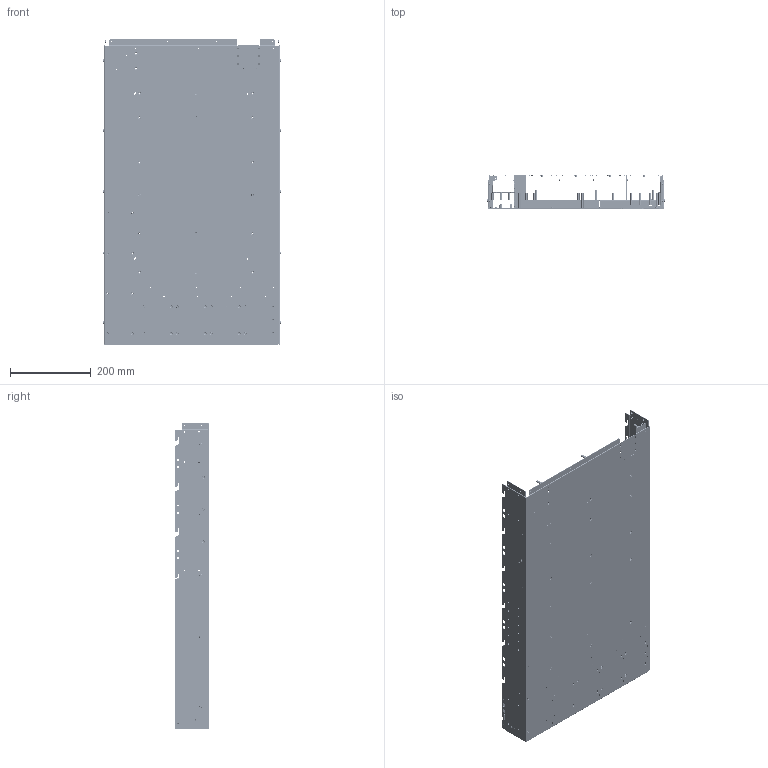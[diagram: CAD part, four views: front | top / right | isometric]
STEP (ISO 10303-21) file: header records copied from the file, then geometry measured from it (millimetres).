
FILE_DESCRIPTION((''),'2;1');
FILE_NAME('CHASSIS_ASM_400G_EC_R_0113','2020-02-11T',('829856'),('Rior'),'CREO PARAMETRIC BY PTC INC, 2015480','CREO PARAMETRIC BY PTC INC, 2015480','');
FILE_SCHEMA(('AUTOMOTIVE_DESIGN { 1 0 10303 214 1 1 1 1 }'));
Products named in the file (39): NCP-2_CHASSIS_2RU_J2_C1_21_1; PEM_SKC-F_SHEET_JOIN_J2_10_1; STANDOFF_M3XL8_ALIGNMENT_5_1; STANDOFF_M3X8L_6_1; RAIL_NUT_7_9_1; NUT-RM-M4_5_1; STANDOFF_M3XL39_28_5_1; STANDOFF_M3XL9_63L_7_1; SO_M3X9_63_A_6_1; RVT_POP_SKK3030PT_8_1; PIN_D2_8X6_10_1; PEM_SMPS-M3_NUT_14_1; NCP-2_CHASSIS_2RU_J2_C1_A_31_1; PSU_DIVIDING_RIGHT_J2_ALPHA_SM_; INSERT_PEM_CLS_M4-1_14_1; MOUNT_NUT_M3X3_14_1; PSU_DIVIDING_RIGHT_J2_SM_A_9_1; PSU_PARTITION_J21_14_1; RVT_POP_SKK3025PT_6_1; PSU_PARTITION_J2_A_14_1; BAFFLE_PSU_J2_NCP2_1_C1_13_1; CAGE_PSU_J2_NCP2-1_36_1; FAN_DIVIDING_J2_SM_11_1; FAN_DIVIDING_J2_SM_A_9_1; TOP_REINFORCE_PLATE_J2_13_1; STANDOFF_FAN_11_1; TOP_REINFORCE_PLATE_J2_A_21_1; MB_HOLDER_BRACKET_J2-1_NCP-2_C1; LC_MBHOLDER_BRACKET_J2-2_S_12_1; SO_M3X17-08_A_6_1; SO_M3X17-08_5_1; SO_M3X25_68_5_1; SO_M3X29-58_5_1; MB_HOLDER_SUPPORTER_J2_NCP-2_7_; MB_HOLDER_SUPPORTER-2_J2_NCP-2_; MB_HOLDER_BRACKET_J2-1_NCP-2__2; 0_NCP-2_CHASSIS_2RU_J2_C1_78_1; CHASSIS_ASM_400G_EC_R_1; CHASSIS_ASM_400G_EC_R_0113
Assembly tree (238 placements, depth 6):
  CHASSIS_ASM_400G_EC_R_0113
    CHASSIS_ASM_400G_EC_R_1
      0_NCP-2_CHASSIS_2RU_J2_C1_78_1
        NCP-2_CHASSIS_2RU_J2_C1_A_31_1
          NCP-2_CHASSIS_2RU_J2_C1_21_1
          PEM_SKC-F_SHEET_JOIN_J2_10_1  x4
          STANDOFF_M3XL8_ALIGNMENT_5_1  x2
          STANDOFF_M3X8L_6_1  x6
          RAIL_NUT_7_9_1  x10
          NUT-RM-M4_5_1  x42
          STANDOFF_M3XL39_28_5_1  x3
          STANDOFF_M3XL9_63L_7_1  x2
          SO_M3X9_63_A_6_1  x2
          RVT_POP_SKK3030PT_8_1  x4
          PIN_D2_8X6_10_1  x4
          PEM_SMPS-M3_NUT_14_1  x8
        CAGE_PSU_J2_NCP2-1_36_1
          PSU_DIVIDING_RIGHT_J2_SM_A_9_1
            PSU_DIVIDING_RIGHT_J2_ALPHA_SM_
            INSERT_PEM_CLS_M4-1_14_1  x2
            MOUNT_NUT_M3X3_14_1
          PSU_PARTITION_J2_A_14_1
            PSU_PARTITION_J21_14_1
            RVT_POP_SKK3025PT_6_1  x2
          RVT_POP_SKK3025PT_6_1  x8
          BAFFLE_PSU_J2_NCP2_1_C1_13_1
          RVT_POP_SKK3030PT_8_1  x2
        FAN_DIVIDING_J2_SM_A_9_1  x3
          FAN_DIVIDING_J2_SM_11_1
          RVT_POP_SKK3030PT_8_1
        TOP_REINFORCE_PLATE_J2_A_21_1
          TOP_REINFORCE_PLATE_J2_13_1
          STANDOFF_FAN_11_1  x4
          PEM_SMPS-M3_NUT_14_1  x3
          RVT_POP_SKK3030PT_8_1  x15
        RVT_POP_SKK3030PT_8_1  x55
        MB_HOLDER_BRACKET_J2-1_NCP-2__2
          MB_HOLDER_BRACKET_J2-1_NCP-2_C1
          LC_MBHOLDER_BRACKET_J2-2_S_12_1
          SO_M3X17-08_A_6_1  x2
          SO_M3X17-08_5_1  x10
          SO_M3X25_68_5_1  x8
          SO_M3X29-58_5_1  x8
          RVT_POP_SKK3030PT_8_1  x7
          MB_HOLDER_SUPPORTER_J2_NCP-2_7_  x2
          MB_HOLDER_SUPPORTER-2_J2_NCP-2_
Bounding box: 441.2 x 86.5 x 759.8 mm (x, y, z)
Volume: 1120930 mm3; surface area: 2094582 mm2
Topology: 233 solids, 233 shells, 8986 faces, 23528 edges, 15207 vertices
Faces by surface type: plane 4164, cylinder 2780, cone 1690, torus 288, sphere 64
Entity records: 180225 total; most frequent: DIRECTION 31208, CARTESIAN_POINT 31064, ORIENTED_EDGE 29924, EDGE_CURVE 14962, AXIS2_PLACEMENT_3D 10517, VECTOR 10174, LINE 10174, VERTEX_POINT 9861
